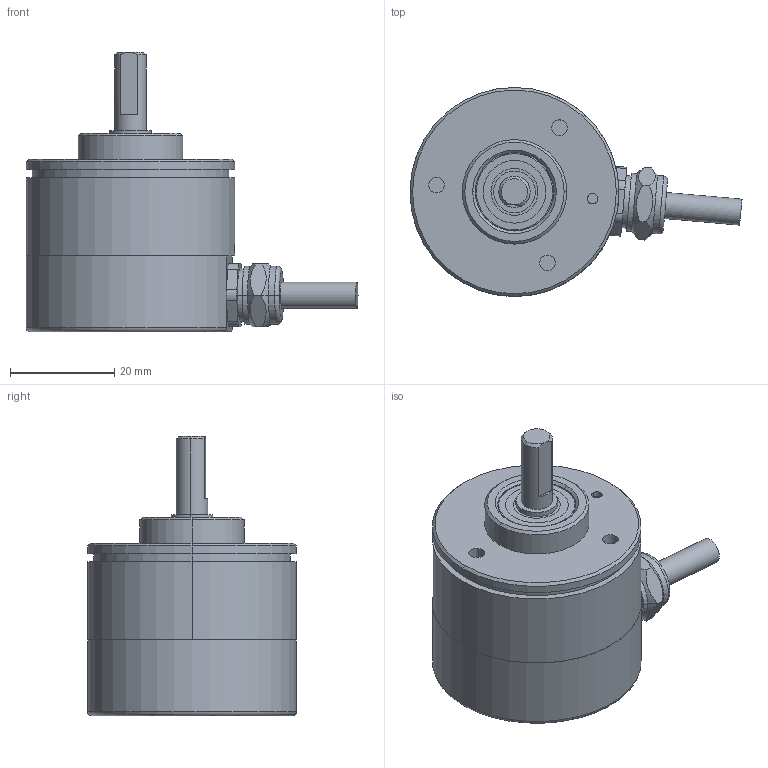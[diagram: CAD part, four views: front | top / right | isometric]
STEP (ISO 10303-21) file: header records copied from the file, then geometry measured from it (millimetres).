
FILE_DESCRIPTION(/* description */ (''),/* implementation_level */ '2;1');
FILE_NAME(/* name */ '欧艾迪编码器 IP68-38-6mm轴_stp.stp',/* time_stamp */ '2024-04-22T18:54:22+08:00',/* author */ (''),/* organization */ (''),/* preprocessor_version */ 'ST-DEVELOPER v16.7',/* originating_system */ 'SIEMENS PLM Software NX 12.0',/* authorisation */ '');
FILE_SCHEMA (('AP203_CONFIGURATION_CONTROLLED_3D_DESIGN_OF_MECHANICAL_PARTS_AND_ASSEMBLIES_MIM_LF { 1 0 10303 403 2 1 2}'));
Length unit declared in the file: millimetre
Products named in the file (1): Li Y5970CF99cbay
Bounding box: 63.55 x 40 x 53.5 mm (x, y, z)
Volume: 22491.1 mm3; surface area: 20529.1 mm2
Topology: 10 solids, 10 shells, 283 faces, 848 edges, 539 vertices
Faces by surface type: cylinder 123, plane 69, torus 53, sphere 26, cone 12
Full cylindrical faces by diameter (mm): 5 x1, 9 x1, 12 x1, 38 x1
Entity records: 10740 total; most frequent: CARTESIAN_POINT 3193, ORIENTED_EDGE 1590, DIRECTION 1527, EDGE_CURVE 795, AXIS2_PLACEMENT_3D 681, VERTEX_POINT 540, CIRCLE 397, EDGE_LOOP 347
